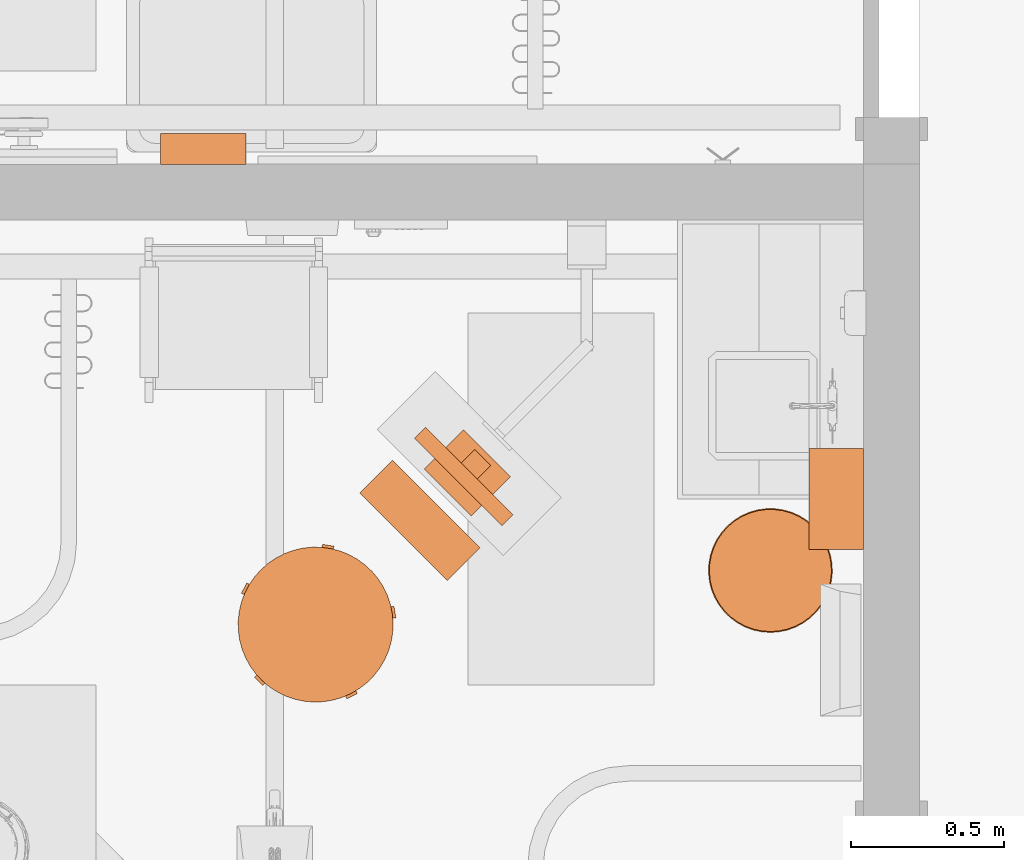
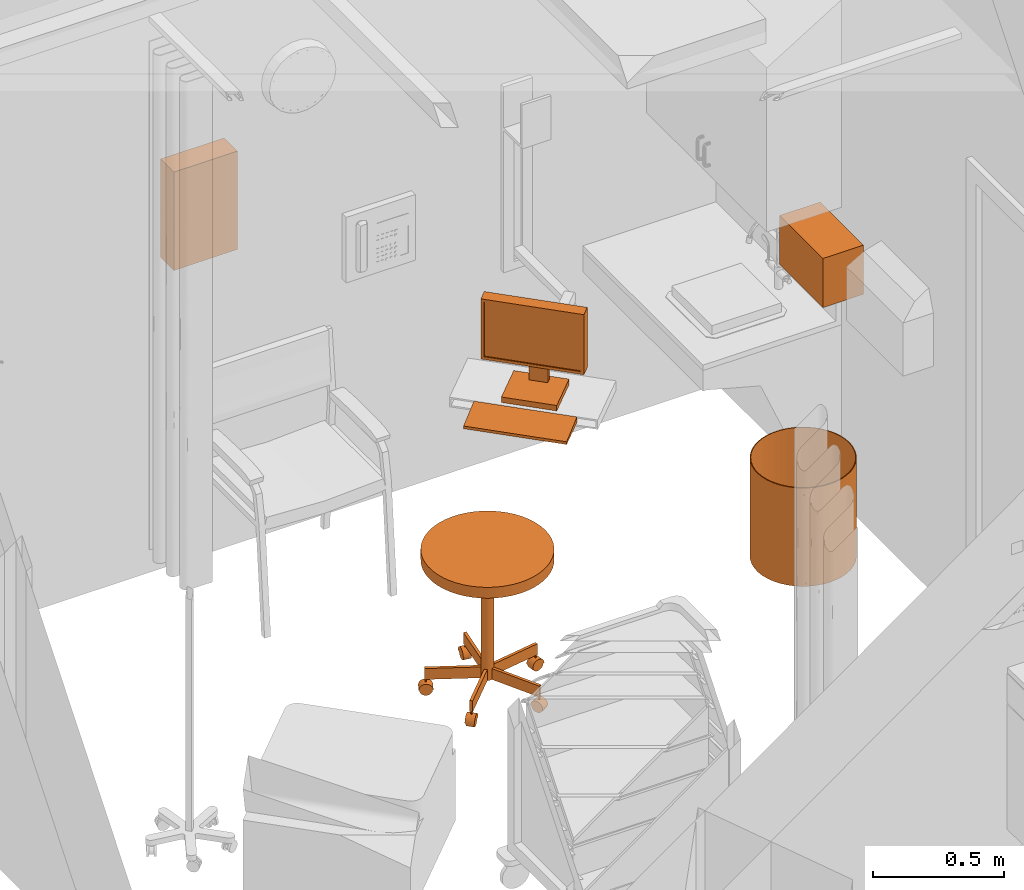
# One storey, part 92 of 142: 5 proxies.
"""IFC2X3 building model written with IfcOpenShell, lengths in feet."""

from ifc_helpers import new_model, entity, si_unit, converted_unit, derived_unit, direction, frame, frame_2d, origin, origin_2d_with_axis, place, context, subcontext, project, spatial, polyline, circle_curve, parameter, trimmed, segment, composite_curve, rectangle, circle, hollow_circle, outline, extrude, faceted_brep, source, transform, mapped, type_object, type_shapes, element, save


model = new_model("IFC2X3")

# Units and contexts
model_context = context("Model", 3, precision=0.0001, world=origin(), true_north=direction((6.12303176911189e-17, 1.0)))
body_context = subcontext(model_context, "Body", "Model", "MODEL_VIEW")
ifc_project = project(units=[converted_unit("LENGTHUNIT", "FOOT", entity("IfcRatioMeasure", 0.3048), si_unit("LENGTHUNIT", "METRE"), dimensions=[1, 0, 0, 0, 0, 0, 0]), converted_unit("AREAUNIT", "SQUARE FOOT", entity("IfcRatioMeasure", 0.09290304), si_unit("AREAUNIT", "SQUARE_METRE"), dimensions=[2, 0, 0, 0, 0, 0, 0]), converted_unit("VOLUMEUNIT", "CUBIC FOOT", entity("IfcRatioMeasure", 0.028316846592), si_unit("VOLUMEUNIT", "CUBIC_METRE"), dimensions=[3, 0, 0, 0, 0, 0, 0]), converted_unit("PLANEANGLEUNIT", "DEGREE", entity("IfcRatioMeasure", 0.0174532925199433), si_unit("PLANEANGLEUNIT", "RADIAN"), dimensions=[0, 0, 0, 0, 0, 0, 0]), si_unit("MASSUNIT", "GRAM", prefix="KILO"), derived_unit("MASSDENSITYUNIT", [(si_unit("MASSUNIT", "GRAM", prefix="KILO"), 1), (si_unit("LENGTHUNIT", "METRE"), -3)]), si_unit("TIMEUNIT", "SECOND"), si_unit("FREQUENCYUNIT", "HERTZ"), si_unit("THERMODYNAMICTEMPERATUREUNIT", "DEGREE_CELSIUS"), derived_unit("THERMALTRANSMITTANCEUNIT", [(si_unit("MASSUNIT", "GRAM", prefix="KILO"), 1), (si_unit("THERMODYNAMICTEMPERATUREUNIT", "KELVIN"), -1), (si_unit("TIMEUNIT", "SECOND"), -3)]), derived_unit("VOLUMETRICFLOWRATEUNIT", [(si_unit("LENGTHUNIT", "METRE"), 3), (si_unit("TIMEUNIT", "SECOND"), -1)]), si_unit("ELECTRICCURRENTUNIT", "AMPERE"), si_unit("ELECTRICVOLTAGEUNIT", "VOLT"), si_unit("POWERUNIT", "WATT"), si_unit("FORCEUNIT", "NEWTON"), si_unit("ILLUMINANCEUNIT", "LUX"), si_unit("LUMINOUSFLUXUNIT", "LUMEN"), si_unit("LUMINOUSINTENSITYUNIT", "CANDELA"), derived_unit("USERDEFINED", [(si_unit("MASSUNIT", "GRAM", prefix="KILO"), -1), (si_unit("LENGTHUNIT", "METRE"), -2), (si_unit("TIMEUNIT", "SECOND"), 3), (si_unit("LUMINOUSFLUXUNIT", "LUMEN"), 1)]), derived_unit("LINEARVELOCITYUNIT", [(si_unit("LENGTHUNIT", "METRE"), 1), (si_unit("TIMEUNIT", "SECOND"), -1)]), si_unit("PRESSUREUNIT", "PASCAL"), derived_unit("USERDEFINED", [(si_unit("LENGTHUNIT", "METRE"), -2), (si_unit("MASSUNIT", "GRAM", prefix="KILO"), 1), (si_unit("TIMEUNIT", "SECOND"), -2)])], contexts=[model_context])

# Site, building, storey, space
site_placement = place(None, origin())
site = spatial("IfcSite", under=ifc_project, at=site_placement, Name="Default", CompositionType="ELEMENT")
building_placement = place(site_placement, origin())
building = spatial("IfcBuilding", under=site, at=building_placement, Name="OUTPATIENT / PACT CLINIC (Ch. 265)", CompositionType="ELEMENT")
storey_placement = place(building_placement, origin())
storey = spatial("IfcBuildingStorey", under=building, at=storey_placement, Name="LEVEL 1", CompositionType="ELEMENT", Elevation=0.0)
space_1_placement = place(storey_placement, origin())
space_1 = spatial("IfcSpace", under=storey, at=space_1_placement, Name="EXPA01", CompositionType="ELEMENT", InteriorOrExteriorSpace="INTERNAL")

# Proxies
building_element_proxy_type_1 = type_object("IfcBuildingElementProxyType", Name="F2000 - Basket, Wastepaper", PredefinedType="NOTDEFINED")
shared_shape_1 = source(origin(), body_context, "Body", "SweptSolid", [
    extrude(circle(Radius=0.666666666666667, at=frame_2d((0.0, -1.07702971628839e-15), x_axis=(1.0, 0.0))), origin(), (0.0, 0.0, 1.0), 0.0104166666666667),
    extrude(hollow_circle(Radius=0.666666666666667, WallThickness=0.0104166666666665, at=frame_2d((0.0, -1.07702971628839e-15), x_axis=(1.0, 0.0))), frame((0.0, 0.0, 0.0104166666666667)), (0.0, 0.0, 1.0), 1.48958333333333),
])
type_shapes(building_element_proxy_type_1, [shared_shape_1])
proxy_1_placement = place(space_1_placement, frame((402.463309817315, -925.210354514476, 0.0), z_axis=(0.0, 0.0, 1.0), x_axis=(0.0, -1.0, 0.0)))
element("IfcBuildingElementProxy", 1, at=proxy_1_placement, inside=space_1, type_object=building_element_proxy_type_1, Name="F2000 - Basket, Wastepaper:F2000 - Basket, Wastepaper", ObjectType="F2000 - Basket, Wastepaper", context=body_context, shape_type="MappedRepresentation", body=[
    mapped(shared_shape_1, transform((0.0, 0.0, 0.0), scale=1.0)),
])
building_element_proxy_type_2 = type_object("IfcBuildingElementProxyType", Name="A5080 - Dispenser, Paper Towel", PredefinedType="NOTDEFINED")
shared_shape_2 = source(origin(), body_context, "Body", "SweptSolid", [
    extrude(rectangle(XDim=0.58333333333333, YDim=1.08333333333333, at=frame_2d((9.99200722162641e-16, 0.0), x_axis=(1.0, 0.0))), frame((0.0, -0.291666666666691, 0.0), z_axis=(0.0, 0.0, 1.0), x_axis=(0.0, 1.0, 0.0)), (0.0, 0.0, 1.0), 0.75),
])
type_shapes(building_element_proxy_type_2, [shared_shape_2])
proxy_2_placement = place(space_1_placement, frame((403.463309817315, -924.441352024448, 3.5), z_axis=(0.0, 0.0, 1.0), x_axis=(0.0, -1.0, 0.0)))
element("IfcBuildingElementProxy", 2, at=proxy_2_placement, inside=space_1, type_object=building_element_proxy_type_2, Name="A5080 - Dispenser, Paper Towel:A5080 - Dispenser, Paper Towel", ObjectType="A5080 - Dispenser, Paper Towel", context=body_context, shape_type="MappedRepresentation", body=[
    mapped(shared_shape_2, transform((0.0, 0.0, 0.0), scale=1.0)),
])
building_element_proxy_type_3 = type_object("IfcBuildingElementProxyType", Name="M1801 - Computer with Flat Panel Monitor", PredefinedType="NOTDEFINED")
shared_shape_3 = source(origin(), body_context, "Body", "Brep", [
    faceted_brep([(0.666666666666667, -0.5625, 0.0), (0.666666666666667, -0.0624999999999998, 0.0), (0.666666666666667, -0.0624999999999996, 0.0833333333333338), (0.666666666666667, -0.5625, 0.0416666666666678), (-0.666666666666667, -0.5625, 0.0), (-0.666666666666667, -0.5625, 0.0416666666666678), (-0.666666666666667, -0.0624999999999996, 0.0833333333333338), (-0.666666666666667, -0.0624999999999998, 0.0)], [[[0, 1, 2, 3]], [[4, 5, 6, 7]], [[1, 0, 4, 7]], [[2, 1, 7, 6]], [[3, 2, 6, 5]], [[0, 3, 5, 4]]]),
    faceted_brep([(0.666666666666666, 0.437223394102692, 1.41666666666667), (-0.666666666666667, 0.437223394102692, 1.41666666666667), (-0.666666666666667, 0.271109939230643, 1.41666666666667), (0.666666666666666, 0.271109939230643, 1.41666666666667), (0.666666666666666, 0.437223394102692, 0.500000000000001), (0.666666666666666, 0.271109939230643, 0.500000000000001), (-0.666666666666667, 0.271109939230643, 0.500000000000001), (-0.666666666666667, 0.437223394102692, 0.500000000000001), (-0.625, 0.271109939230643, 1.375), (0.625, 0.271109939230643, 1.375), (0.625, 0.271109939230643, 0.541666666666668), (-0.625, 0.271109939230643, 0.541666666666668), (0.625, 0.286812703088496, 1.375), (-0.625, 0.286812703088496, 1.375), (0.625, 0.286812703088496, 0.541666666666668), (-0.625, 0.286812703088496, 0.541666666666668)], [[[0, 1, 2, 3]], [[4, 5, 6, 7]], [[1, 0, 4, 7]], [[2, 1, 7, 6]], [[3, 2, 6, 5], [8, 9, 10, 11]], [[0, 3, 5, 4]], [[12, 9, 8, 13]], [[14, 15, 11, 10]], [[12, 13, 15, 14]], [[13, 8, 11, 15]], [[9, 12, 14, 10]]]),
    faceted_brep([(0.358011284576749, 0.111770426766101, 0.0833333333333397), (0.358011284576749, 0.111770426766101, 0.0), (0.358011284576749, 0.708333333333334, 0.0), (0.358011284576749, 0.708333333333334, 0.0833333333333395), (-0.358011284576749, 0.708333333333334, 0.0833333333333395), (-0.358011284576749, 0.708333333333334, 0.0), (-0.358011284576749, 0.111770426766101, 0.0), (-0.358011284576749, 0.111770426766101, 0.0833333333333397), (0.12128795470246, 0.645556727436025, 0.104166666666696), (0.12128795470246, 0.645556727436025, 0.0833333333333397), (-0.12128795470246, 0.645556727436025, 0.0833333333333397), (-0.12128795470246, 0.645556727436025, 0.104166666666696), (0.12128795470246, 0.645556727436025, 0.958333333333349), (-0.12128795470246, 0.645556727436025, 0.958333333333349), (0.12128795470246, 0.437223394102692, 0.958333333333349), (-0.12128795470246, 0.437223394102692, 0.958333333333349), (0.12128795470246, 0.437223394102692, 0.791666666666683), (-0.12128795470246, 0.437223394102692, 0.791666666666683), (0.12128795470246, 0.562223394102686, 0.791666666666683), (-0.12128795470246, 0.562223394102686, 0.791666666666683), (0.12128795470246, 0.562223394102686, 0.0833333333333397), (-0.12128795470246, 0.562223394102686, 0.0833333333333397)], [[[0, 1, 2, 3]], [[4, 5, 6, 7]], [[8, 9, 10, 11]], [[12, 8, 11, 13]], [[14, 12, 13, 15]], [[16, 14, 15, 17]], [[18, 16, 17, 19]], [[20, 18, 19, 21]], [[0, 3, 4, 7], [9, 20, 21, 10]], [[1, 0, 7, 6]], [[2, 1, 6, 5]], [[3, 2, 5, 4]], [[20, 9, 8, 12, 14, 16, 18]], [[10, 21, 19, 17, 15, 13, 11]]]),
])
type_shapes(building_element_proxy_type_3, [shared_shape_3])
proxy_3_placement = place(space_1_placement, frame((398.914565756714, -924.450512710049, 2.9791666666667), z_axis=(0.0, 0.0, 1.0), x_axis=(0.707106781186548, -0.707106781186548, 0.0)))
element("IfcBuildingElementProxy", 3, at=proxy_3_placement, inside=space_1, type_object=building_element_proxy_type_3, Name="M1801 - Computer with Flat Panel Monitor1:M1801 - Computer with Flat Panel Monitor", ObjectType="M1801 - Computer with Flat Panel Monitor", context=body_context, shape_type="MappedRepresentation", body=[
    mapped(shared_shape_3, transform((0.0, 0.0, 0.0), scale=1.0)),
])
building_element_proxy_type_4 = type_object("IfcBuildingElementProxyType", Name="F0340 - Stool, Self Adjusting", PredefinedType="NOTDEFINED")
shared_shape_4 = source(origin(), body_context, "Body", "SweptSolid", [
    extrude(circle(Radius=0.084518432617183, at=frame_2d((0.0, -1.38777878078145e-16), x_axis=(1.0, 0.0))), frame((0.717011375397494, 0.287734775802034, 0.0845184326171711), z_axis=(0.309016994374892, -0.951056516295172, 0.0), x_axis=(-0.951056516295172, -0.309016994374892, 0.0)), (0.0, 0.0, 1.0), 0.104166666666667),
    extrude(outline(composite_curve([segment(polyline([(-0.0925649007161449, 0.0), (0.0925649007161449, 0.0)]), True, "CONTINUOUS"), segment(trimmed(circle_curve(origin_2d_with_axis(), 0.0925649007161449), [parameter(2.03555499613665e-13)], [parameter(180.0)], True, "PARAMETER"), True, "CONTINUOUS")], self_intersect=False)), frame((0.752419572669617, 0.178759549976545, 0.0845184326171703), z_axis=(-0.309016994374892, 0.951056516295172, 0.0), x_axis=(-0.951056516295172, -0.309016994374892, 0.0)), (0.0, 0.0, 1.0), 0.125),
    extrude(circle(Radius=0.0115130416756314, at=frame_2d((7.9106571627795e-18, 1.14165428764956e-16), x_axis=(1.0, 0.0))), frame((0.73310678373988, 0.238198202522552, 0.177083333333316), z_axis=(0.0, 0.0, 1.0), x_axis=(0.309016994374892, -0.951056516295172, 0.0)), (0.0, 0.0, 1.0), 0.0442708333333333),
    extrude(rectangle(XDim=0.0416641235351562, YDim=0.7059128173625, at=frame_2d((1.38777878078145e-17, 0.0), x_axis=(1.0, 0.0))), frame((0.412570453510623, 0.134049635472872, 0.221354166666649), z_axis=(0.0, 0.0, 1.0), x_axis=(-0.309016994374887, 0.951056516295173, 0.0)), (0.0, 0.0, 1.0), 0.166666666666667),
    extrude(circle(Radius=0.084518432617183, at=frame_2d((0.0, -3.7470027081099e-16), x_axis=(1.0, 0.0))), frame((0.410948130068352, -0.654231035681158, 0.0845184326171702), z_axis=(0.809016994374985, 0.587785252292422, 0.0), x_axis=(-0.587785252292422, 0.809016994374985, 0.0)), (0.0, 0.0, 1.0), 0.104166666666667),
    extrude(outline(composite_curve([segment(polyline([(-0.0925649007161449, 0.0), (0.0925649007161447, 0.0)]), True, "CONTINUOUS"), segment(trimmed(circle_curve(origin_2d_with_axis(), 0.0925649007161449), [parameter(2.03555499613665e-13)], [parameter(180.0)], True, "PARAMETER"), True, "CONTINUOUS")], self_intersect=False)), frame((0.402520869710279, -0.660353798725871, 0.0845184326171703), z_axis=(0.809016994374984, 0.587785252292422, 0.0), x_axis=(-0.587785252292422, 0.809016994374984, 0.0)), (0.0, 0.0, 1.0), 0.125),
    extrude(circle(Radius=0.0115130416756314, at=origin_2d_with_axis()), frame((0.453082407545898, -0.623618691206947, 0.177083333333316), z_axis=(0.0, 0.0, 1.0), x_axis=(-0.809016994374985, -0.587785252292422, 0.0)), (0.0, 0.0, 1.0), 0.0442708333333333),
    extrude(rectangle(XDim=0.0416641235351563, YDim=0.705912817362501, at=frame_2d((0.0, -1.38777878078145e-16), x_axis=(1.0, 0.0))), frame((0.254980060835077, -0.350954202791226, 0.221354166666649), z_axis=(0.0, 0.0, 1.0), x_axis=(0.809016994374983, 0.587785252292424, 0.0)), (0.0, 0.0, 1.0), 0.166666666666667),
    extrude(circle(Radius=0.084518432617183, at=frame_2d((-3.2628636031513e-17, -1.38777878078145e-16), x_axis=(1.0, 0.0))), frame((-0.410948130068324, -0.654231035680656, 0.0845184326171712), z_axis=(-0.809016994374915, 0.587785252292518, 0.0), x_axis=(0.587785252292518, 0.809016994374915, 0.0)), (0.0, 0.0, 1.0), 0.104166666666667),
    extrude(outline(composite_curve([segment(trimmed(circle_curve(origin_2d_with_axis(), 0.0925649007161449), [parameter(180.0)], [parameter(360.0)], True, "PARAMETER"), True, "CONTINUOUS"), segment(polyline([(0.0925649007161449, 0.0), (-0.0925649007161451, 0.0)]), True, "CONTINUOUS")], self_intersect=False)), frame((-0.402520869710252, -0.66035379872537, 0.0845184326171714), z_axis=(-0.809016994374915, 0.587785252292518, 0.0), x_axis=(0.587785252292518, 0.809016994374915, 0.0)), (0.0, 0.0, 1.0), 0.125),
    extrude(circle(Radius=0.0115130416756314, at=frame_2d((-4.49094647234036e-17, -3.2628636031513e-17), x_axis=(1.0, 0.0))), frame((-0.453086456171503, -0.623615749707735, 0.177083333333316), z_axis=(0.0, 0.0, 1.0), x_axis=(-0.809016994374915, 0.587785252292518, 0.0)), (0.0, 0.0, 1.0), 0.0442708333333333),
    extrude(rectangle(XDim=0.0416641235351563, YDim=0.7059128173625, at=frame_2d((-4.16333634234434e-17, 5.55111512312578e-17), x_axis=(1.0, 0.0))), frame((-0.254984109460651, -0.350951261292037, 0.221354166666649), z_axis=(0.0, 0.0, 1.0), x_axis=(0.809016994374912, -0.587785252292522, 0.0)), (0.0, 0.0, 1.0), 0.166666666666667),
    extrude(circle(Radius=0.084518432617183, at=frame_2d((0.0, -1.38777878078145e-16), x_axis=(1.0, 0.0))), frame((-0.749200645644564, 0.188666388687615, 0.0845184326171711), z_axis=(0.309016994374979, 0.951056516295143, 0.0), x_axis=(0.951056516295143, -0.309016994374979, 0.0)), (0.0, 0.0, 1.0), 0.104166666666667),
    extrude(outline(composite_curve([segment(trimmed(circle_curve(origin_2d_with_axis(), 0.0925649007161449), [parameter(180.0)], [parameter(360.0)], True, "PARAMETER"), True, "CONTINUOUS"), segment(polyline([(0.0925649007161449, 0.0), (-0.0925649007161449, 0.0)]), True, "CONTINUOUS")], self_intersect=False)), frame((-0.752419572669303, 0.178759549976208, 0.0845184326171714), z_axis=(0.309016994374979, 0.951056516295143, 0.0), x_axis=(0.951056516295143, -0.309016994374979, 0.0)), (0.0, 0.0, 1.0), 0.125),
    extrude(circle(Radius=0.0115130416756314, at=frame_2d((7.91065716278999e-18, -1.14165428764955e-16), x_axis=(1.0, 0.0))), frame((-0.733105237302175, 0.238202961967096, 0.177083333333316), z_axis=(0.0, 0.0, 1.0), x_axis=(0.309016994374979, 0.951056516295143, 0.0)), (0.0, 0.0, 1.0), 0.0442708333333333),
    extrude(rectangle(XDim=0.0416641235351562, YDim=0.7059128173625, at=origin_2d_with_axis()), frame((-0.412568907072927, 0.134054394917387, 0.221354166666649), z_axis=(0.0, 0.0, 1.0), x_axis=(-0.309016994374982, -0.951056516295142, 0.0)), (0.0, 0.0, 1.0), 0.166666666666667),
    extrude(circle(Radius=0.084518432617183, at=frame_2d((-1.76415182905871e-31, -1.38777878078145e-16), x_axis=(1.0, 0.0))), frame((-0.0520833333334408, 0.770833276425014, 0.0845184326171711), z_axis=(1.0, 0.0, 0.0), x_axis=(0.0, -1.0, 0.0)), (0.0, 0.0, 1.0), 0.104166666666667),
    extrude(outline(composite_curve([segment(trimmed(circle_curve(origin_2d_with_axis(), 0.0925649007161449), [parameter(180.0)], [parameter(360.0)], True, "PARAMETER"), True, "CONTINUOUS"), segment(polyline([(0.0925649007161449, 0.0), (-0.0925649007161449, 0.0)]), True, "CONTINUOUS")], self_intersect=False)), frame((-0.0625000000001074, 0.770833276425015, 0.0845184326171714), z_axis=(1.0, 0.0, 0.0), x_axis=(0.0, -1.0, 0.0)), (0.0, 0.0, 1.0), 0.125),
    extrude(circle(Radius=0.0115130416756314, at=frame_2d((7.04731412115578e-19, 1.79171670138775e-32), x_axis=(1.0, 0.0))), frame((2.50218814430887e-06, 0.770833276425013, 0.177083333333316)), (0.0, 0.0, 1.0), 0.0442708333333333),
    extrude(rectangle(XDim=0.0416641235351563, YDim=0.7059128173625, at=frame_2d((3.46944695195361e-18, 5.55111512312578e-17), x_axis=(1.0, 0.0))), frame((2.50218813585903e-06, 0.433801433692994, 0.221354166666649), z_axis=(0.0, 0.0, 1.0), x_axis=(-1.0, 0.0, 0.0)), (0.0, 0.0, 1.0), 0.166666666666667),
    extrude(circle(Radius=0.0834863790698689, at=frame_2d((2.89333175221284e-18, -1.34875966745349e-16), x_axis=(1.0, 0.0))), frame((0.0, 0.0, 0.221354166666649)), (0.0, 0.0, 1.0), 1.77864583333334),
    extrude(circle(Radius=0.833333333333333, at=frame_2d((2.28760446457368e-17, -1.34628714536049e-15), x_axis=(1.0, 0.0))), frame((0.0, 0.0, 2.0)), (0.0, 0.0, 1.0), 0.166666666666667),
])
type_shapes(building_element_proxy_type_4, [shared_shape_4])
proxy_4_placement = place(space_1_placement, frame((397.573053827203, -925.79202463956, 0.0), z_axis=(0.0, 0.0, 1.0), x_axis=(-0.707106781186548, 0.707106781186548, 0.0)))
element("IfcBuildingElementProxy", 4, at=proxy_4_placement, inside=space_1, type_object=building_element_proxy_type_4, Name="F0340 - Stool, Self Adjusting:F0340 - Stool, Self Adjusting", ObjectType="F0340 - Stool, Self Adjusting", context=body_context, shape_type="MappedRepresentation", body=[
    mapped(shared_shape_4, transform((0.0, 0.0, 0.0), scale=1.0)),
])

# Space
space_2_placement = place(storey_placement, origin())
space_2 = spatial("IfcSpace", under=storey, at=space_2_placement, Name="EXPA01", CompositionType="ELEMENT", InteriorOrExteriorSpace="INTERNAL")

# Proxy
building_element_proxy_type_5 = type_object("IfcBuildingElementProxyType", Name="A5107 - Dispenser, Glove, Surgical-Examination, Wall Mntd 10\"x 4\"", PredefinedType="NOTDEFINED")
shared_shape_5 = source(origin(), body_context, "Body", "SweptSolid", [
    extrude(rectangle(XDim=0.333333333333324, YDim=0.916666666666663, at=frame_2d((-1.38777878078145e-17, 0.0), x_axis=(1.0, 0.0))), frame((0.0, 0.166666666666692, 0.0), z_axis=(0.0, 0.0, 1.0), x_axis=(0.0, 1.0, 0.0)), (0.0, 0.0, 1.0), 1.5),
])
type_shapes(building_element_proxy_type_5, [shared_shape_5])
proxy_5_placement = place(space_2_placement, frame((396.364351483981, -920.8469300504, 4.0)))
element("IfcBuildingElementProxy", 5, at=proxy_5_placement, inside=space_2, type_object=building_element_proxy_type_5, Name="A5107 - Dispenser, Glove, Surgical-Examination, Wall Mntd1:A5107 - Dispenser, Glove, Surgical-Examination, Wall Mntd 10\"x 4\"", ObjectType="A5107 - Dispenser, Glove, Surgical-Examination, Wall Mntd 10\"x 4\"", context=body_context, shape_type="MappedRepresentation", body=[
    mapped(shared_shape_5, transform((0.0, 0.0, 0.0), scale=1.0)),
])

save(model, "model.ifc")
